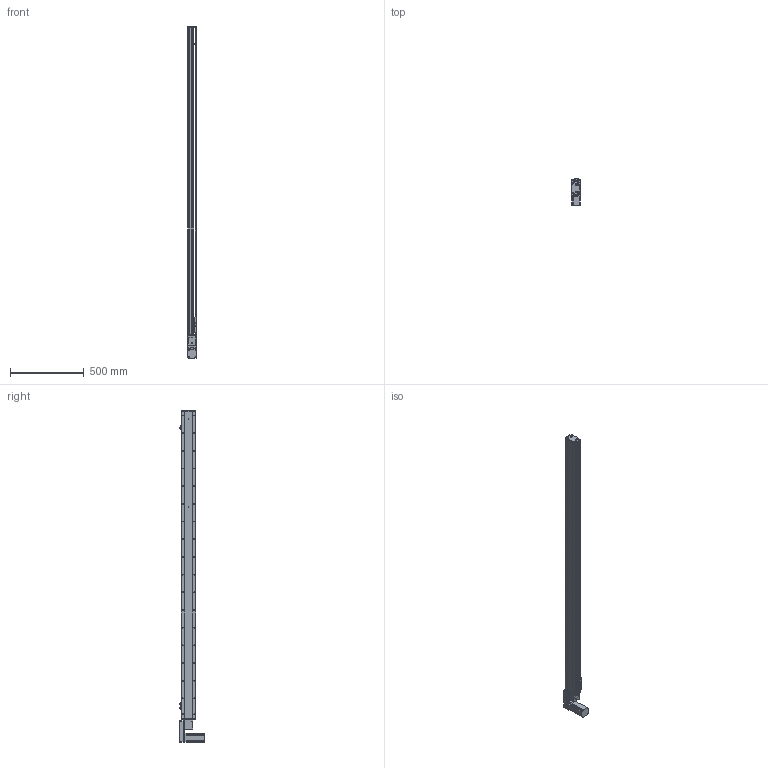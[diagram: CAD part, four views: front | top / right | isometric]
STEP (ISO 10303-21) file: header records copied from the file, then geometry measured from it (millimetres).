
FILE_DESCRIPTION (( 'STEP AP214' ), '1' );
FILE_NAME ('KSD100B-S1900-MLB-CM.STEP', '2019-08-31T02:34:17', ( '微软用户' ), ( '微软中国' ), 'SwSTEP 2.0', 'SolidWorks 2014', '' );
FILE_SCHEMA (( 'AUTOMOTIVE_DESIGN' ));
Length unit declared in the file: millimetre
Products named in the file (12): 100宽底板半封闭同步带1900行程; KSD100B-S1900-MLB-CM; 悵誘欶奻狟殏; 100宽马达安装板连板上下折丝杆同步带; 台达ECMA－C20604AS伺服电机; U倰嫖萇EEㄜSX672; 覜茼え100遵圉猾敕; 100宽防尘板1900行程-同步带; 100宽马达安装板同步带左; 100宽同步带安装板半封闭; 100宽马达安装板同步带; 100遵傷啣肮祭湍
Assembly tree (13 placements, depth 2):
  KSD100B-S1900-MLB-CM
    100宽底板半封闭同步带1900行程
    100遵傷啣肮祭湍
    100宽马达安装板同步带
    100宽同步带安装板半封闭
    100宽马达安装板同步带左
    100宽防尘板1900行程-同步带
    覜茼え100遵圉猾敕
    U倰嫖萇EEㄜSX672  x3
    台达ECMA－C20604AS伺服电机
    100宽马达安装板连板上下折丝杆同步带
    悵誘欶奻狟殏
Bounding box: 61 x 174.7 x 2253 mm (x, y, z)
Volume: 4447977.3 mm3; surface area: 1528780.9 mm2
Topology: 14 solids, 14 shells, 1733 faces, 4928 edges, 3097 vertices
Faces by surface type: cylinder 911, plane 623, cone 199
Entity records: 64157 total; most frequent: CARTESIAN_POINT 13982, DIRECTION 8616, ORIENTED_EDGE 8364, EDGE_CURVE 4182, AXIS2_PLACEMENT_3D 3181, VERTEX_POINT 2721, VECTOR 2254, LINE 2254
